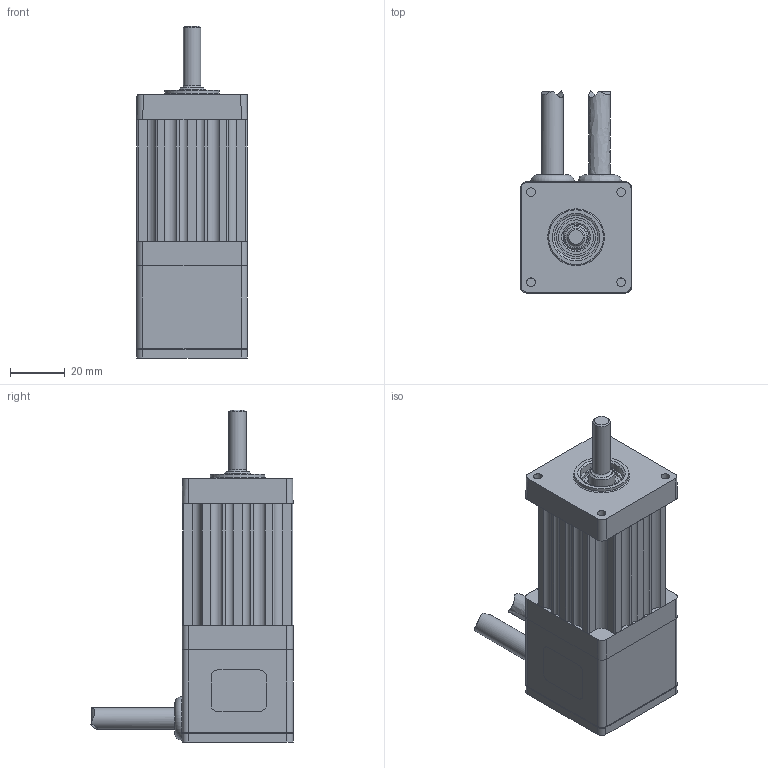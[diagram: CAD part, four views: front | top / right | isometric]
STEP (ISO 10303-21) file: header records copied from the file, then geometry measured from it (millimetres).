
FILE_DESCRIPTION((''),'2;1');
FILE_NAME('C:\CAD_work\Dummy_Modeling_Project_02-12-05\3D MODELS\SM161_CBL.stp','2005-12-20T17:37:20',('jevans'),(''),'Autodesk Inventor 10','Autodesk Inventor 10','');
FILE_SCHEMA(('AUTOMOTIVE_DESIGN { 1 0 10303 214 1 1 1 1 }'));
Length unit declared in the file: inch
Products named in the file (1): SM16_CBL
Bounding box: 40.67 x 74.07 x 121.67 mm (x, y, z)
Volume: 191865.2 mm3; surface area: 31397.3 mm2
Topology: 8 solids, 8 shells, 223 faces, 565 edges, 369 vertices
Faces by surface type: plane 97, cylinder 92, bspline 28, cone 3, torus 3
Full cylindrical faces by diameter (mm): 6.35 x1, 7.95 x1, 9.525 x2, 12.7 x1, 14.224 x1, 15.875 x2, 17.526 x1, 20.015 x1, 22.225 x1, 22.228 x1
Entity records: 7296 total; most frequent: CARTESIAN_POINT 2018, DIRECTION 1096, ORIENTED_EDGE 1054, EDGE_CURVE 527, AXIS2_PLACEMENT_3D 403, VERTEX_POINT 359, VECTOR 290, LINE 290
